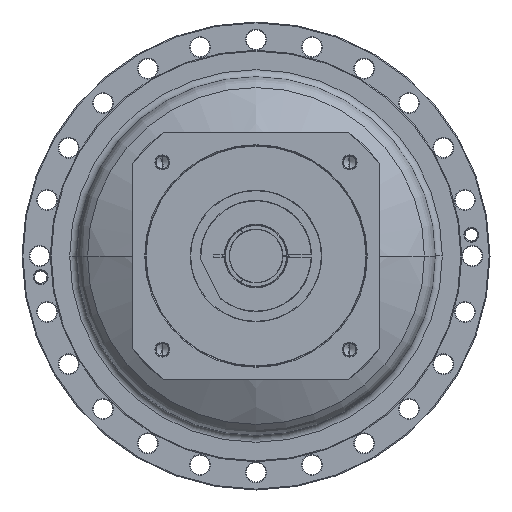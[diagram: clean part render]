
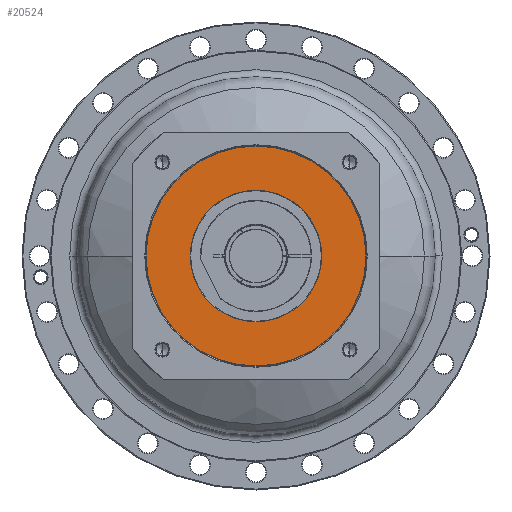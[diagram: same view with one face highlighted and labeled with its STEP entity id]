
A CAD part, left-side view. The second image highlights one B-rep face of the part: STEP entity #20524.
In plain terms, the highlighted planar face has unit normal (-1, 0, 0) as drawn and (0, 0, 1) by its records, which use the part's own axes.
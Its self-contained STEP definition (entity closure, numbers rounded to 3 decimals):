
#19255=CARTESIAN_POINT('',(0.,0.,58.));
#19256=DIRECTION('',(0.,0.,-1.));
#19257=DIRECTION('',(0.,-1.,0.));
#19258=AXIS2_PLACEMENT_3D('',#19255,#19256,#19257);
#19260=CARTESIAN_POINT('',(0.,0.,58.));
#19261=DIRECTION('',(0.,0.,-1.));
#19262=DIRECTION('',(0.,1.,0.));
#19263=AXIS2_PLACEMENT_3D('',#19260,#19261,#19262);
#19265=CARTESIAN_POINT('',(0.,0.,58.));
#19266=DIRECTION('',(0.,0.,-1.));
#19267=DIRECTION('',(1.,0.,0.));
#19268=AXIS2_PLACEMENT_3D('',#19265,#19266,#19267);
#19283=CARTESIAN_POINT('',(0.,0.,58.));
#19284=DIRECTION('',(0.,0.,-1.));
#19285=DIRECTION('',(-1.,0.,0.));
#19286=AXIS2_PLACEMENT_3D('',#19283,#19284,#19285);
#19818=CARTESIAN_POINT('',(0.,-124.5,58.));
#19819=CARTESIAN_POINT('',(0.,124.5,58.));
#19820=VERTEX_POINT('',#19818);
#19821=VERTEX_POINT('',#19819);
#19826=CARTESIAN_POINT('',(-74.5,0.,58.));
#19827=CARTESIAN_POINT('',(74.5,0.,58.));
#19828=VERTEX_POINT('',#19826);
#19829=VERTEX_POINT('',#19827);
#20508=CARTESIAN_POINT('',(0.,0.,58.));
#20509=DIRECTION('',(0.,0.,-1.));
#20510=DIRECTION('',(0.,-1.,0.));
#20511=AXIS2_PLACEMENT_3D('',#20508,#20509,#20510);
#20512=PLANE('',#20511);
#20514=ORIENTED_EDGE('',*,*,#20513,.T.);
#20515=ORIENTED_EDGE('',*,*,#20498,.T.);
#20516=EDGE_LOOP('',(#20514,#20515));
#20517=FACE_OUTER_BOUND('',#20516,.F.);
#20519=ORIENTED_EDGE('',*,*,#20518,.F.);
#20521=ORIENTED_EDGE('',*,*,#20520,.F.);
#20522=EDGE_LOOP('',(#20519,#20521));
#20523=FACE_BOUND('',#20522,.F.);
#20524=ADVANCED_FACE('',(#20517,#20523),#20512,.F.);
#19259=CIRCLE('',#19258,124.5);
#19264=CIRCLE('',#19263,124.5);
#19269=CIRCLE('',#19268,74.5);
#19287=CIRCLE('',#19286,74.5);
#20498=EDGE_CURVE('',#19821,#19820,#19264,.T.);
#20513=EDGE_CURVE('',#19820,#19821,#19259,.T.);
#20518=EDGE_CURVE('',#19829,#19828,#19269,.T.);
#20520=EDGE_CURVE('',#19828,#19829,#19287,.T.);
